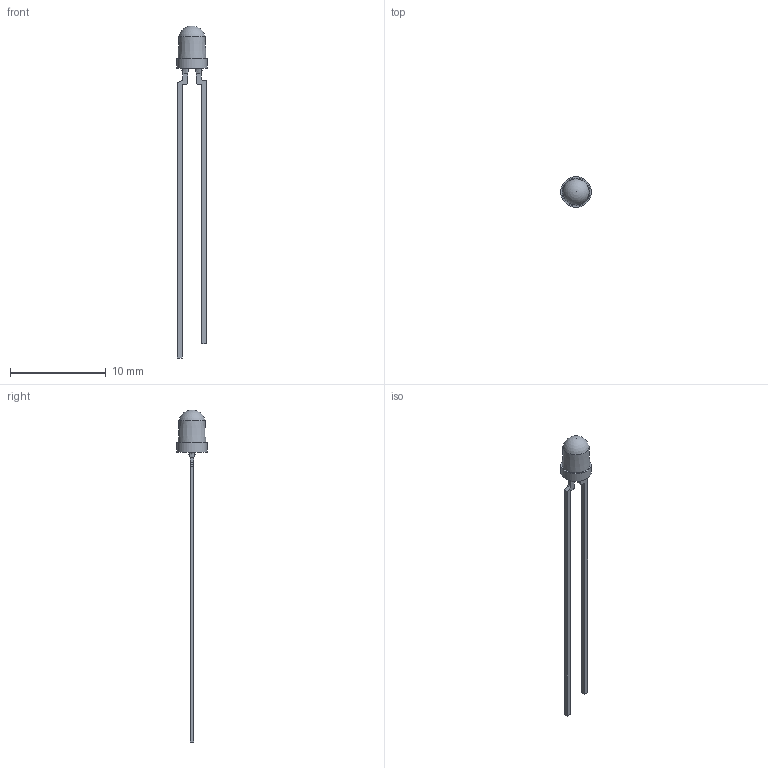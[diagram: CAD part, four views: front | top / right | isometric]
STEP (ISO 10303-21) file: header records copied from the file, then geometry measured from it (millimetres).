
FILE_DESCRIPTION(/* description */ ('Emitter'),/* implementation_level */ '2;1');
FILE_NAME(/* name */ 'C:\Users\mmangarudov\OneDrive - Vishay Intertechnology, Inc\Visibles\TLx49_6.544-5264.2.stp',/* time_stamp */ '2023-10-25T14:51:05+02:00',/* author */ ('mmangarudov'),/* organization */ (''),/* preprocessor_version */ 'ST-DEVELOPER v18.1',/* originating_system */ 'Autodesk Inventor 2022',/* authorisation */ '');
FILE_SCHEMA (('AUTOMOTIVE_DESIGN { 1 0 10303 214 3 1 1 }'));
Length unit declared in the file: millimetre
Products named in the file (1): 6.544-5264.2
Bounding box: 3.2 x 3.2 x 34.7 mm (x, y, z)
Volume: 38.5 mm3; surface area: 157.3 mm2
Topology: 1 solids, 1 shells, 37 faces, 91 edges, 58 vertices
Faces by surface type: plane 20, bspline 8, cylinder 7, sphere 1, cone 1
Full cylindrical faces by diameter (mm): 3.2 x1
Entity records: 1281 total; most frequent: CARTESIAN_POINT 390, ORIENTED_EDGE 180, DIRECTION 160, EDGE_CURVE 90, LINE 64, VECTOR 64, VERTEX_POINT 58, AXIS2_PLACEMENT_3D 48
